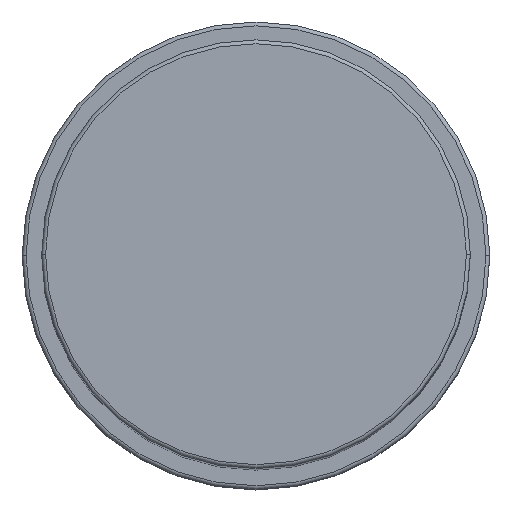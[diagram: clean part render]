
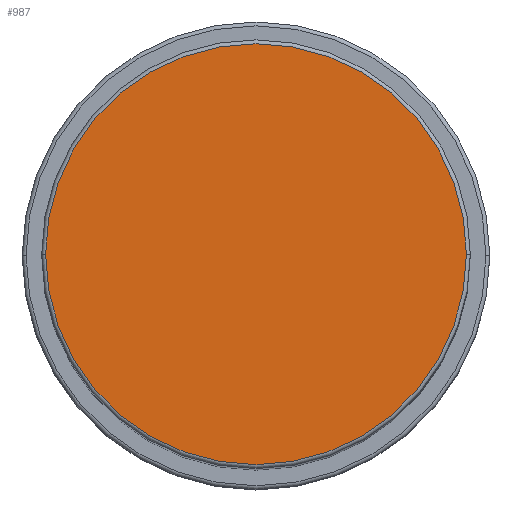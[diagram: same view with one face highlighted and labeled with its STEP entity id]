
A CAD part, top view. The second image highlights one B-rep face of the part: STEP entity #987.
In plain terms, the highlighted planar face has unit normal (0, 0, 1).
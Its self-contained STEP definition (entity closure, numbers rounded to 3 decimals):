
#2 = FACE_OUTER_BOUND ( 'NONE', #930, .T. ) ;
#92 = PLANE ( 'NONE',  #1724 ) ;
#215 = DIRECTION ( 'NONE',  ( 0., 0., 1. ) ) ;
#493 = CIRCLE ( 'NONE', #790, 27. ) ;
#690 = VERTEX_POINT ( 'NONE', #1117 ) ;
#707 = CIRCLE ( 'NONE', #908, 27. ) ;
#713 = VERTEX_POINT ( 'NONE', #1296 ) ;
#790 = AXIS2_PLACEMENT_3D ( 'NONE', #1496, #1638, #801 ) ;
#801 = DIRECTION ( 'NONE',  ( 1., 0., 0. ) ) ;
#808 = DIRECTION ( 'NONE',  ( 0., 0., 1. ) ) ;
#908 = AXIS2_PLACEMENT_3D ( 'NONE', #909, #215, #1471 ) ;
#909 = CARTESIAN_POINT ( 'NONE',  ( 0., 0., 133. ) ) ;
#930 = EDGE_LOOP ( 'NONE', ( #1332, #1734 ) ) ;
#987 = ADVANCED_FACE ( 'NONE', ( #2 ), #92, .T. ) ;
#1117 = CARTESIAN_POINT ( 'NONE',  ( -27., 0., 133. ) ) ;
#1296 = CARTESIAN_POINT ( 'NONE',  ( 27., 0., 133. ) ) ;
#1332 = ORIENTED_EDGE ( 'NONE', *, *, #1499, .T. ) ;
#1378 = DIRECTION ( 'NONE',  ( 1., 0., 0. ) ) ;
#1471 = DIRECTION ( 'NONE',  ( 1., 0., 0. ) ) ;
#1496 = CARTESIAN_POINT ( 'NONE',  ( 0., 0., 133. ) ) ;
#1499 = EDGE_CURVE ( 'NONE', #713, #690, #707, .T. ) ;
#1508 = CARTESIAN_POINT ( 'NONE',  ( 0., 0., 133. ) ) ;
#1633 = EDGE_CURVE ( 'NONE', #690, #713, #493, .T. ) ;
#1638 = DIRECTION ( 'NONE',  ( 0., 0., 1. ) ) ;
#1724 = AXIS2_PLACEMENT_3D ( 'NONE', #1508, #808, #1378 ) ;
#1734 = ORIENTED_EDGE ( 'NONE', *, *, #1633, .T. ) ;
